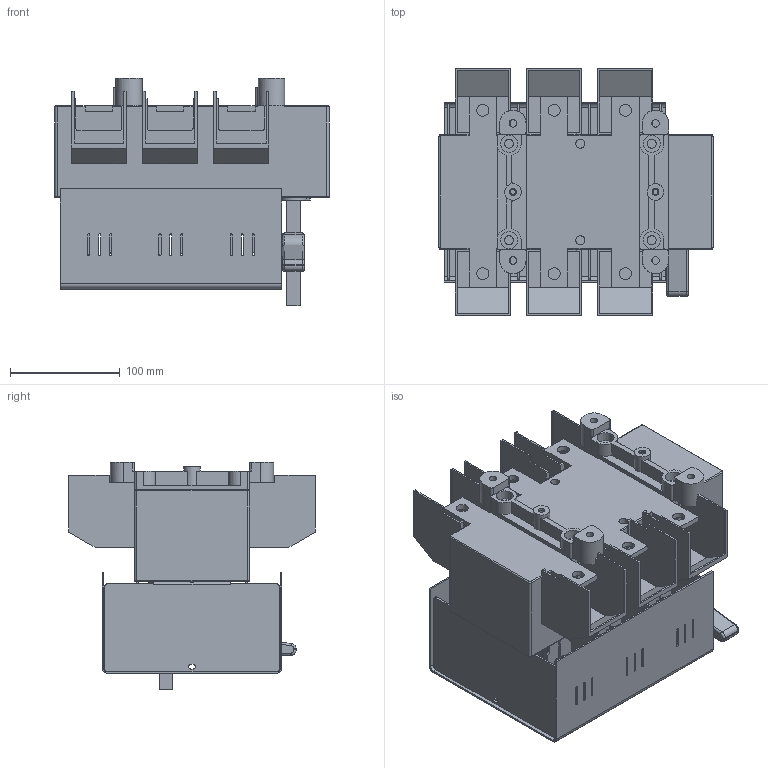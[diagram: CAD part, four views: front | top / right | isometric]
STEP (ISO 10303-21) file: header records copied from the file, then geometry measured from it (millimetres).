
FILE_DESCRIPTION(/* description */ (''),/* implementation_level */ '2;1');
FILE_NAME(/* name */ 'RAB 2 P3 z oslona zaciskow.stp',/* time_stamp */ '2021-08-19T13:12:36+02:00',/* author */ (''),/* organization */ (''),/* preprocessor_version */ 'ST-DEVELOPER v18.1',/* originating_system */ 'SIEMENS PLM Software NX 1965',/* authorisation */ '');
FILE_SCHEMA (('AUTOMOTIVE_DESIGN { 1 0 10303 214 3 1 1 }','TECHNICAL_DATA_PACKAGING'));
Length unit declared in the file: millimetre
Products named in the file (1): RAB 2 P3 z oslona zaciskow
Bounding box: 250 x 225 x 207.3 mm (x, y, z)
Volume: 2647014.5 mm3; surface area: 567870.8 mm2
Topology: 2 solids, 2 shells, 1187 faces, 3351 edges, 2181 vertices
Faces by surface type: plane 798, cylinder 367, bspline 8, torus 8, sphere 6
Full cylindrical faces by diameter (mm): 4.8 x2, 6.2 x2, 7 x4, 8.2 x6, 11 x6, 14 x4, 15 x2, 15.5 x4
Entity records: 38316 total; most frequent: CARTESIAN_POINT 6838, ORIENTED_EDGE 6602, DIRECTION 6439, EDGE_CURVE 3301, LINE 2507, VECTOR 2507, VERTEX_POINT 2164, AXIS2_PLACEMENT_3D 1966
